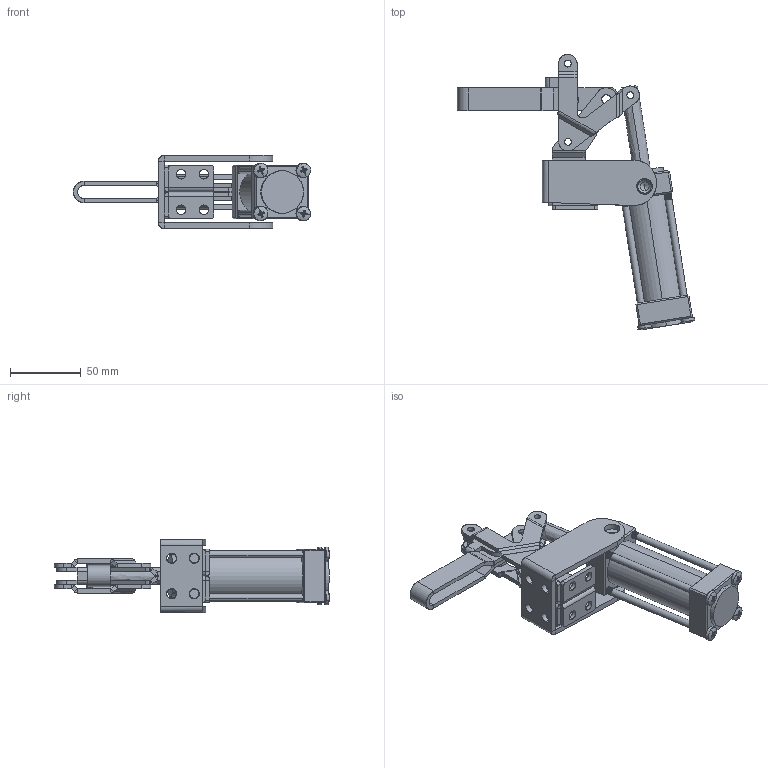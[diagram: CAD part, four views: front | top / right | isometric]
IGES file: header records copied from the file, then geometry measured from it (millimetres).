
Start section: SolidWorks IGES file using analytic representation for surfaces
Global section: file name: D:\GH Files\GH-SW-FILES\GH-A\20820A\20820A.IGS; native system: SolidWorks 2006 by SolidWorks Corporation; preprocessor: SolidWorks 2006 by SolidWorks Corporation; author: Administrator; date: 060526.120151; units: millimetre
Bounding box: 167.26 x 194 x 51.5 mm (x, y, z)
Surface area: 92393.9 mm2 (no closed solid volume)
Topology: 0 solids, 0 shells, 1289 faces, 12136 edges, 12124 vertices
Faces by surface type: revolution 916, bspline 373
